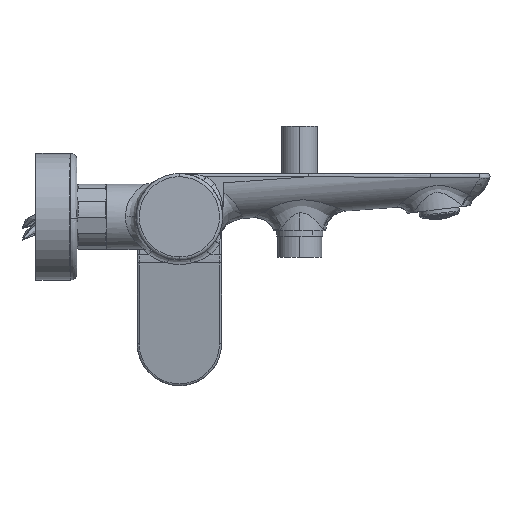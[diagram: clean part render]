
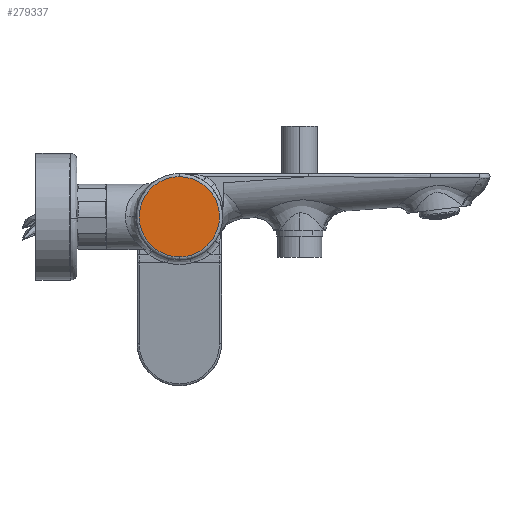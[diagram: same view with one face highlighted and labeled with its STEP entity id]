
A CAD part, left-side view. The second image highlights one B-rep face of the part: STEP entity #279337.
In plain terms, the highlighted planar face has unit normal (-1, 0, 0).
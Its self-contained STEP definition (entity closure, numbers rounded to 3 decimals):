
#9350 = ORIENTED_EDGE ( 'NONE', *, *, #295428, .F. ) ;
#12483 = CARTESIAN_POINT ( 'NONE',  ( -116.5, 19., 0. ) ) ;
#18729 = CARTESIAN_POINT ( 'NONE',  ( -116.5, 0., 0. ) ) ;
#31522 = CARTESIAN_POINT ( 'NONE',  ( -116.5, 19., 0. ) ) ;
#36172 = CARTESIAN_POINT ( 'NONE',  ( -116.5, -11.13, -19. ) ) ;
#38161 =( BOUNDED_CURVE ( )  B_SPLINE_CURVE ( 3, ( #241157, #269926, #134713, #237774 ),
 .UNSPECIFIED., .F., .F. ) 
 B_SPLINE_CURVE_WITH_KNOTS ( ( 4, 4 ),
 ( 0., 1. ),
 .UNSPECIFIED. ) 
 CURVE ( )  GEOMETRIC_REPRESENTATION_ITEM ( )  RATIONAL_B_SPLINE_CURVE ( ( 1., 0.805, 0.805, 1. ) ) 
 REPRESENTATION_ITEM ( '' )  );
#38404 = VERTEX_POINT ( 'NONE', #178525 ) ;
#71643 = ORIENTED_EDGE ( 'NONE', *, *, #219357, .F. ) ;
#80599 = EDGE_CURVE ( 'NONE', #38404, #94142, #262780, .T. ) ;
#91367 = FACE_OUTER_BOUND ( 'NONE', #278621, .T. ) ;
#94142 = VERTEX_POINT ( 'NONE', #268363 ) ;
#118917 = CARTESIAN_POINT ( 'NONE',  ( -116.5, 0., 19. ) ) ;
#134713 = CARTESIAN_POINT ( 'NONE',  ( -116.5, 19., -11.13 ) ) ;
#137623 = CARTESIAN_POINT ( 'NONE',  ( -116.5, -19., 0. ) ) ;
#152161 = CARTESIAN_POINT ( 'NONE',  ( -116.5, 0., 19. ) ) ;
#170804 = VERTEX_POINT ( 'NONE', #31522 ) ;
#178525 = CARTESIAN_POINT ( 'NONE',  ( -116.5, -19., 0. ) ) ;
#192832 = VERTEX_POINT ( 'NONE', #152161 ) ;
#199523 = DIRECTION ( 'NONE',  ( 1., 0., 0. ) ) ;
#199961 = CARTESIAN_POINT ( 'NONE',  ( -116.5, 11.13, 19. ) ) ;
#206542 = CARTESIAN_POINT ( 'NONE',  ( -116.5, -19., 0. ) ) ;
#213806 = CARTESIAN_POINT ( 'NONE',  ( -116.5, 0., -19. ) ) ;
#219357 = EDGE_CURVE ( 'NONE', #94142, #170804, #38161, .T. ) ;
#231389 = EDGE_CURVE ( 'NONE', #170804, #192832, #280649, .T. ) ;
#237774 = CARTESIAN_POINT ( 'NONE',  ( -116.5, 19., 0. ) ) ;
#240740 = CARTESIAN_POINT ( 'NONE',  ( -116.5, -19., -11.13 ) ) ;
#241157 = CARTESIAN_POINT ( 'NONE',  ( -116.5, 0., -19. ) ) ;
#250200 = PLANE ( 'NONE',  #321634 ) ;
#252228 = CARTESIAN_POINT ( 'NONE',  ( -116.5, -19., 11.13 ) ) ;
#255539 = CARTESIAN_POINT ( 'NONE',  ( -116.5, -11.13, 19. ) ) ;
#262780 =( BOUNDED_CURVE ( )  B_SPLINE_CURVE ( 3, ( #137623, #240740, #36172, #213806 ),
 .UNSPECIFIED., .F., .F. ) 
 B_SPLINE_CURVE_WITH_KNOTS ( ( 4, 4 ),
 ( 0., 1. ),
 .UNSPECIFIED. ) 
 CURVE ( )  GEOMETRIC_REPRESENTATION_ITEM ( )  RATIONAL_B_SPLINE_CURVE ( ( 1., 0.805, 0.805, 1. ) ) 
 REPRESENTATION_ITEM ( '' )  );
#268363 = CARTESIAN_POINT ( 'NONE',  ( -116.5, 0., -19. ) ) ;
#269926 = CARTESIAN_POINT ( 'NONE',  ( -116.5, 11.13, -19. ) ) ;
#278621 = EDGE_LOOP ( 'NONE', ( #71643, #312237, #9350, #313796 ) ) ;
#279337 = ADVANCED_FACE ( 'NONE', ( #91367 ), #250200, .F. ) ;
#280649 =( BOUNDED_CURVE ( )  B_SPLINE_CURVE ( 3, ( #12483, #325094, #199961, #118917 ),
 .UNSPECIFIED., .F., .F. ) 
 B_SPLINE_CURVE_WITH_KNOTS ( ( 4, 4 ),
 ( 0., 0.5 ),
 .UNSPECIFIED. ) 
 CURVE ( )  GEOMETRIC_REPRESENTATION_ITEM ( )  RATIONAL_B_SPLINE_CURVE ( ( 1., 0.805, 0.805, 1. ) ) 
 REPRESENTATION_ITEM ( '' )  );
#295428 = EDGE_CURVE ( 'NONE', #192832, #38404, #328818, .T. ) ;
#301031 = DIRECTION ( 'NONE',  ( 0., 0., -1. ) ) ;
#312237 = ORIENTED_EDGE ( 'NONE', *, *, #80599, .F. ) ;
#313796 = ORIENTED_EDGE ( 'NONE', *, *, #231389, .F. ) ;
#321634 = AXIS2_PLACEMENT_3D ( 'NONE', #18729, #199523, #301031 ) ;
#325094 = CARTESIAN_POINT ( 'NONE',  ( -116.5, 19., 11.13 ) ) ;
#328818 =( BOUNDED_CURVE ( )  B_SPLINE_CURVE ( 3, ( #330075, #255539, #252228, #206542 ),
 .UNSPECIFIED., .F., .F. ) 
 B_SPLINE_CURVE_WITH_KNOTS ( ( 4, 4 ),
 ( 0.5, 1. ),
 .UNSPECIFIED. ) 
 CURVE ( )  GEOMETRIC_REPRESENTATION_ITEM ( )  RATIONAL_B_SPLINE_CURVE ( ( 1., 0.805, 0.805, 1. ) ) 
 REPRESENTATION_ITEM ( '' )  );
#330075 = CARTESIAN_POINT ( 'NONE',  ( -116.5, 0., 19. ) ) ;
